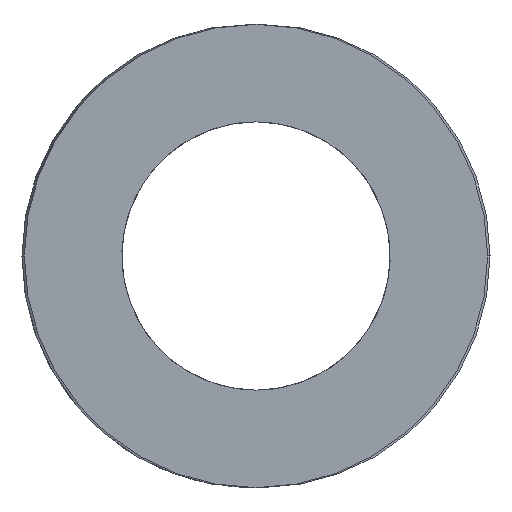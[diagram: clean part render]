
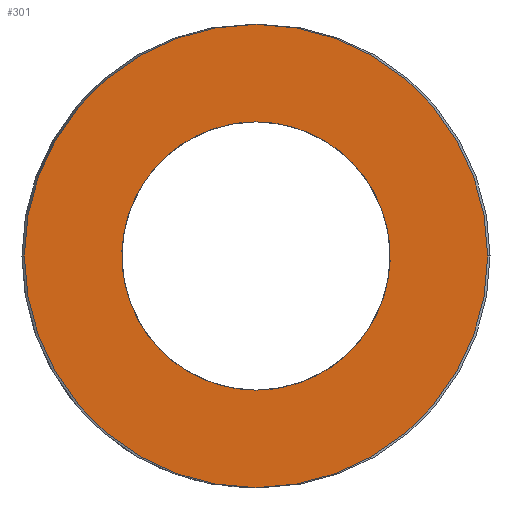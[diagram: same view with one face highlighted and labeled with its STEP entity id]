
A CAD part, left-side view. The second image highlights one B-rep face of the part: STEP entity #301.
In plain terms, the highlighted planar face has unit normal (-1, 0, 0).
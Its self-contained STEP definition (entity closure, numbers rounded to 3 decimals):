
#63=CARTESIAN_POINT('Vertex',(0.,7.6,0.)) ;
#77=CARTESIAN_POINT('Vertex',(0.,-7.6,0.)) ;
#80=CARTESIAN_POINT('Axis2P3D Location',(0.,0.,0.)) ;
#97=CARTESIAN_POINT('Axis2P3D Location',(0.,0.,0.)) ;
#232=CARTESIAN_POINT('Axis2P3D Location',(0.,3.8,0.)) ;
#242=CARTESIAN_POINT('Control Point',(0.,0.,-4.4)) ;
#243=CARTESIAN_POINT('Control Point',(0.,0.411,-4.4)) ;
#244=CARTESIAN_POINT('Control Point',(0.,0.822,-4.352)) ;
#245=CARTESIAN_POINT('Control Point',(0.,1.226,-4.256)) ;
#246=CARTESIAN_POINT('Control Point',(0.,2.003,-3.972)) ;
#247=CARTESIAN_POINT('Control Point',(0.,2.694,-3.516)) ;
#248=CARTESIAN_POINT('Control Point',(0.,3.011,-3.248)) ;
#249=CARTESIAN_POINT('Control Point',(0.,3.577,-2.644)) ;
#250=CARTESIAN_POINT('Control Point',(0.,3.988,-1.926)) ;
#251=CARTESIAN_POINT('Control Point',(0.,4.151,-1.544)) ;
#252=CARTESIAN_POINT('Control Point',(0.,4.384,-0.75)) ;
#253=CARTESIAN_POINT('Control Point',(0.,4.428,0.076)) ;
#254=CARTESIAN_POINT('Control Point',(0.,4.402,0.49)) ;
#255=CARTESIAN_POINT('Control Point',(0.,4.252,1.304)) ;
#256=CARTESIAN_POINT('Control Point',(0.,3.92,2.062)) ;
#257=CARTESIAN_POINT('Control Point',(0.,3.71,2.42)) ;
#258=CARTESIAN_POINT('Control Point',(0.,3.21,3.079)) ;
#259=CARTESIAN_POINT('Control Point',(0.,2.571,3.606)) ;
#260=CARTESIAN_POINT('Control Point',(0.,2.223,3.831)) ;
#261=CARTESIAN_POINT('Control Point',(0.,1.581,4.145)) ;
#262=CARTESIAN_POINT('Control Point',(0.,0.892,4.324)) ;
#263=CARTESIAN_POINT('Control Point',(0.,0.597,4.375)) ;
#264=CARTESIAN_POINT('Control Point',(0.,0.298,4.4)) ;
#265=CARTESIAN_POINT('Control Point',(0.,0.,4.4)) ;
#266=CARTESIAN_POINT('Vertex',(0.,0.,-4.4)) ;
#268=CARTESIAN_POINT('Vertex',(0.,0.,4.4)) ;
#272=CARTESIAN_POINT('Control Point',(0.,0.,4.4)) ;
#273=CARTESIAN_POINT('Control Point',(0.,-0.411,4.4)) ;
#274=CARTESIAN_POINT('Control Point',(0.,-0.822,4.352)) ;
#275=CARTESIAN_POINT('Control Point',(0.,-1.226,4.256)) ;
#276=CARTESIAN_POINT('Control Point',(0.,-2.003,3.972)) ;
#277=CARTESIAN_POINT('Control Point',(0.,-2.694,3.516)) ;
#278=CARTESIAN_POINT('Control Point',(0.,-3.011,3.248)) ;
#279=CARTESIAN_POINT('Control Point',(0.,-3.577,2.644)) ;
#280=CARTESIAN_POINT('Control Point',(0.,-3.988,1.926)) ;
#281=CARTESIAN_POINT('Control Point',(0.,-4.151,1.544)) ;
#282=CARTESIAN_POINT('Control Point',(0.,-4.384,0.75)) ;
#283=CARTESIAN_POINT('Control Point',(0.,-4.428,-0.076)) ;
#284=CARTESIAN_POINT('Control Point',(0.,-4.402,-0.49)) ;
#285=CARTESIAN_POINT('Control Point',(0.,-4.252,-1.304)) ;
#286=CARTESIAN_POINT('Control Point',(0.,-3.92,-2.062)) ;
#287=CARTESIAN_POINT('Control Point',(0.,-3.71,-2.42)) ;
#288=CARTESIAN_POINT('Control Point',(0.,-3.21,-3.079)) ;
#289=CARTESIAN_POINT('Control Point',(0.,-2.571,-3.606)) ;
#290=CARTESIAN_POINT('Control Point',(0.,-2.223,-3.831)) ;
#291=CARTESIAN_POINT('Control Point',(0.,-1.581,-4.145)) ;
#292=CARTESIAN_POINT('Control Point',(0.,-0.892,-4.324)) ;
#293=CARTESIAN_POINT('Control Point',(0.,-0.597,-4.375)) ;
#294=CARTESIAN_POINT('Control Point',(0.,-0.298,-4.4)) ;
#295=CARTESIAN_POINT('Control Point',(0.,0.,-4.4)) ;
#81=DIRECTION('Axis2P3D Direction',(1.,-0.,0.)) ;
#98=DIRECTION('Axis2P3D Direction',(1.,-0.,0.)) ;
#233=DIRECTION('Axis2P3D Direction',(-1.,0.,0.)) ;
#234=DIRECTION('Axis2P3D XDirection',(0.,1.,0.)) ;
#82=AXIS2_PLACEMENT_3D('Circle Axis2P3D',#80,#81,$) ;
#99=AXIS2_PLACEMENT_3D('Circle Axis2P3D',#97,#98,$) ;
#235=AXIS2_PLACEMENT_3D('Plane Axis2P3D',#232,#233,#234) ;
#238=ORIENTED_EDGE('',*,*,#84,.T.) ;
#239=ORIENTED_EDGE('',*,*,#101,.T.) ;
#298=ORIENTED_EDGE('',*,*,#270,.T.) ;
#299=ORIENTED_EDGE('',*,*,#296,.T.) ;
#300=FACE_BOUND('',#297,.T.) ;
#301=ADVANCED_FACE('392-B16-076',(#240,#300),#236,.T.) ;
#241=B_SPLINE_CURVE_WITH_KNOTS('',5,(#242,#243,#244,#245,#246,#247,#248,#249,#250,#251,#252,#253,#254,#255,#256,#257,#258,#259,#260,#261,#262,#263,#264,#265),.UNSPECIFIED.,.F.,.U.,(6,3,3,3,3,3,3,6),(0.,2.907,5.813,8.72,11.626,14.533,17.439,19.549),.UNSPECIFIED.) ;
#271=B_SPLINE_CURVE_WITH_KNOTS('',5,(#272,#273,#274,#275,#276,#277,#278,#279,#280,#281,#282,#283,#284,#285,#286,#287,#288,#289,#290,#291,#292,#293,#294,#295),.UNSPECIFIED.,.F.,.U.,(6,3,3,3,3,3,3,6),(0.,2.907,5.813,8.72,11.626,14.533,17.439,19.549),.UNSPECIFIED.) ;
#83=CIRCLE('generated circle',#82,7.6) ;
#100=CIRCLE('generated circle',#99,7.6) ;
#84=EDGE_CURVE('',#64,#78,#83,.F.) ;
#101=EDGE_CURVE('',#78,#64,#100,.F.) ;
#270=EDGE_CURVE('',#267,#269,#241,.T.) ;
#296=EDGE_CURVE('',#269,#267,#271,.T.) ;
#237=EDGE_LOOP('',(#238,#239)) ;
#297=EDGE_LOOP('',(#298,#299)) ;
#240=FACE_OUTER_BOUND('',#237,.T.) ;
#236=PLANE('Plane',#235) ;
#64=VERTEX_POINT('',#63) ;
#78=VERTEX_POINT('',#77) ;
#267=VERTEX_POINT('',#266) ;
#269=VERTEX_POINT('',#268) ;
